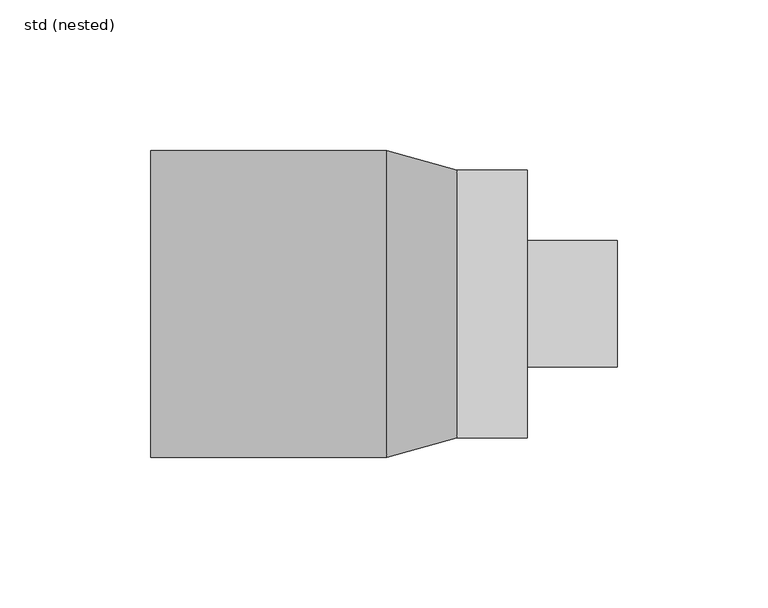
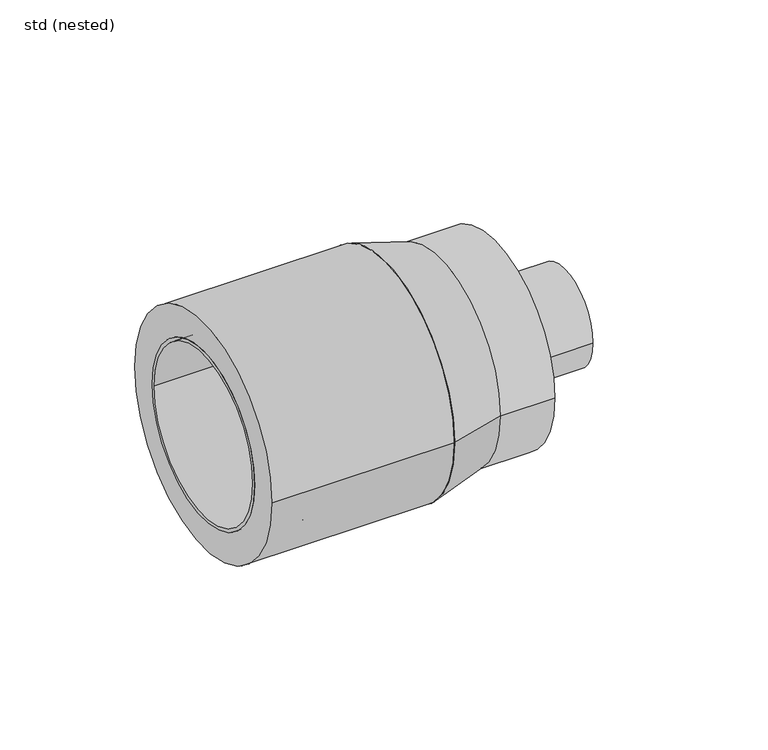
"""IFC4 building model written with IfcOpenShell, lengths in millimetres: pipe fitting geometry, ZZZ_do not use_PIF_ST_WPB_GM-X compound pipe optimiser_ACO : std (nested)."""

from ifc_helpers import new_model, si_unit, point, frame, origin, origin_2d, place, context, project, spatial, polyline, circle_curve, trimmed, segment, composite_curve, outline, extrude, source, transform, mapped, element, save
from ifc_brep_helpers import plane_surface, cylinder_surface, revolved_surface, advanced_brep


def std_nested_d763109f(model_context):
    return source(origin(), model_context, "Body", "SolidModel", [
        advanced_brep(
        [(-49.1, -42.1, 0.0), (-49.1, 42.1, 0.0), (-29.0, 42.1, 0.0), (-29.0, -42.1, 0.0), (-55.0, 38.0, 0.0), (-55.0, -38.0, 0.0), (-55.0, -36.5, 0.0), (-55.0, 36.5, 0.0), (0.0, 38.0, 0.0), (0.0, -38.0, 0.0), (0.0, 36.5, 0.0), (0.0, -36.5, 0.0), (-49.1, 38.0, 0.0), (-49.1, -38.0, 0.0), (-29.0, -38.0, 0.0), (-29.0, 38.0, 0.0)],
        [
            (0, 1, circle_curve(frame((-49.1, 0.0, 0.0), z_axis=(1.0, 0.0, 0.0), x_axis=(0.0, -1.0, 0.0)), 42.1)),
            (1, 2),
            (2, 3, circle_curve(frame((-29.0, 0.0, 0.0), z_axis=(-1.0, 0.0, 0.0), x_axis=(0.0, -1.0, 0.0)), 42.1)),
            (3, 0),
            (1, 0, circle_curve(frame((-49.1, 0.0, 0.0), z_axis=(1.0, 0.0, 0.0), x_axis=(0.0, -1.0, 0.0)), 42.1)),
            (3, 2, circle_curve(frame((-29.0, 0.0, 0.0), z_axis=(-1.0, 0.0, 0.0), x_axis=(0.0, -1.0, 0.0)), 42.1)),
            (4, 5, circle_curve(frame((-55.0, 0.0, 0.0), z_axis=(-1.0, 0.0, 0.0), x_axis=(0.0, -1.0, 0.0)), 38.0)),
            (5, 4, circle_curve(frame((-55.0, 0.0, 0.0), z_axis=(-1.0, 0.0, 0.0), x_axis=(0.0, -1.0, 0.0)), 38.0)),
            (6, 7, circle_curve(frame((-55.0, 0.0, 0.0), z_axis=(1.0, 0.0, 0.0), x_axis=(0.0, -1.0, 0.0)), 36.5)),
            (7, 6, circle_curve(frame((-55.0, 0.0, 0.0), z_axis=(1.0, 0.0, 0.0), x_axis=(0.0, -1.0, 0.0)), 36.5)),
            (8, 9, circle_curve(frame((0.0, 0.0, 0.0), z_axis=(1.0, 0.0, 0.0), x_axis=(0.0, -1.0, 0.0)), 38.0)),
            (9, 8, circle_curve(frame((0.0, 0.0, 0.0), z_axis=(1.0, 0.0, 0.0), x_axis=(0.0, -1.0, 0.0)), 38.0)),
            (10, 11, circle_curve(frame((0.0, 0.0, 0.0), z_axis=(-1.0, 0.0, 0.0), x_axis=(0.0, -1.0, 0.0)), 36.5)),
            (11, 10, circle_curve(frame((0.0, 0.0, 0.0), z_axis=(-1.0, 0.0, 0.0), x_axis=(0.0, -1.0, 0.0)), 36.5)),
            (4, 12),
            (12, 13, circle_curve(frame((-49.1, 0.0, 0.0), z_axis=(-1.0, 0.0, 0.0), x_axis=(0.0, -1.0, 0.0)), 38.0)),
            (13, 5),
            (9, 14),
            (14, 15, circle_curve(frame((-29.0, 0.0, 0.0), z_axis=(1.0, 0.0, 0.0), x_axis=(0.0, -1.0, 0.0)), 38.0)),
            (15, 8),
            (13, 12, circle_curve(frame((-49.1, 0.0, 0.0), z_axis=(-1.0, 0.0, 0.0), x_axis=(0.0, -1.0, 0.0)), 38.0)),
            (15, 14, circle_curve(frame((-29.0, 0.0, 0.0), z_axis=(1.0, 0.0, 0.0), x_axis=(0.0, -1.0, 0.0)), 38.0)),
            (6, 11),
            (10, 7),
        ],
        [
            cylinder_surface(frame((-29.0, 0.0, 0.0), z_axis=(-1.0, 0.0, 0.0), x_axis=(0.0, -1.0, 0.0)), 42.1),
            plane_surface(frame((-55.0, -38.0, 0.0), z_axis=(-1.0, 0.0, 0.0), x_axis=(0.0, 0.0, 1.0))),
            plane_surface(frame((0.0, -38.0, 0.0), z_axis=(1.0, 0.0, 0.0), x_axis=(0.0, 0.0, -1.0))),
            cylinder_surface(frame((0.0, 0.0, 0.0), z_axis=(-1.0, 0.0, 0.0), x_axis=(0.0, -1.0, 0.0)), 38.0),
            revolved_surface(polyline([(-55.0, -36.5, 0.0), (0.0, -36.5, 0.0)]), (0.0, 0.0, 0.0), (-1.0, 0.0, 0.0)),
            plane_surface(frame((-49.1, -42.1, 0.0), z_axis=(-1.0, 0.0, 0.0), x_axis=(0.0, 0.0, 1.0))),
            plane_surface(frame((-29.0, -42.1, 0.0), z_axis=(1.0, 0.0, 0.0), x_axis=(0.0, 0.0, -1.0))),
        ],
        [
            (0, [[1, 2, 3, 4]]),
            (0, [[5, -4, 6, -2]]),
            (1, [[7, 8], [9, 10]]),
            (2, [[11, 12], [13, 14]]),
            (3, [[-7, 15, 16, 17]]),
            (3, [[-12, 18, 19, 20]]),
            (3, [[-8, -17, 21, -15]]),
            (3, [[-11, -20, 22, -18]]),
            (4, [[23, -13, 24, -9]]),
            (4, [[-23, -10, -24, -14]]),
            (5, [[-1, -5], [-16, -21]]),
            (6, [[-6, -3], [-19, -22]]),
        ],
    ),
        advanced_brep(
        [(46.6666667, -44.5, 0.0), (46.6666667, 44.5, 0.0), (23.3333333, -51.0, 0.0), (23.3333333, 51.0, 0.0)],
        [
            (0, 1, circle_curve(frame((46.6666667, 0.0, 0.0), z_axis=(1.0, 0.0, 0.0), x_axis=(0.0, -1.0, 0.0)), 44.5)),
            (1, 0, circle_curve(frame((46.6666667, 0.0, 0.0), z_axis=(1.0, 0.0, 0.0), x_axis=(0.0, 1.0, 0.0)), 44.5)),
            (2, 3, circle_curve(frame((23.3333333, 0.0, 0.0), z_axis=(-1.0, 0.0, 0.0), x_axis=(0.0, 1.0, 0.0)), 51.0)),
            (3, 2, circle_curve(frame((23.3333333, 0.0, 0.0), z_axis=(-1.0, 0.0, 0.0), x_axis=(0.0, -1.0, 0.0)), 51.0)),
            (3, 1),
            (0, 2),
        ],
        [
            plane_surface(frame((46.6666667, 0.0, 0.0), z_axis=(1.0, 0.0, 0.0), x_axis=(0.0, 0.0, -1.0))),
            plane_surface(frame((23.3333333, 0.0, 0.0), z_axis=(-1.0, 0.0, 0.0), x_axis=(0.0, 0.0, -1.0))),
            revolved_surface(polyline([(46.66666670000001, -44.4999999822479, 0.0), (23.333333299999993, -51.0, 0.0)]), (206.4102564, 0.0, 0.0), (-1.0, 0.0, 0.0)),
            revolved_surface(polyline([(46.66666670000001, 44.4999999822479, 0.0), (23.333333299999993, 51.0, 0.0)]), (206.4102564, 0.0, 0.0), (-1.0, 0.0, 0.0)),
        ],
        [
            (0, [[1, 2]]),
            (1, [[3, 4]]),
            (2, [[-4, 5, -1, 6]]),
            (3, [[-3, -6, -2, -5]]),
        ],
    ),
        advanced_brep(
        [(-55.0, -51.0, 0.0), (-55.0, 51.0, 0.0), (-55.0, 38.0, 0.0), (-55.0, -38.0, 0.0), (23.3333333, -51.0, 0.0), (23.3333333, 51.0, 0.0), (0.0, -38.0, 0.0), (0.0, 38.0, 0.0)],
        [
            (0, 1, circle_curve(frame((-55.0, 0.0, 0.0), z_axis=(-1.0, 0.0, 0.0), x_axis=(0.0, 1.0, 0.0)), 51.0)),
            (1, 0, circle_curve(frame((-55.0, 0.0, 0.0), z_axis=(-1.0, 0.0, 0.0), x_axis=(0.0, 1.0, 0.0)), 51.0)),
            (2, 3, circle_curve(frame((-55.0, 0.0, 0.0), z_axis=(1.0, 0.0, 0.0), x_axis=(0.0, 1.0, 0.0)), 38.0)),
            (3, 2, circle_curve(frame((-55.0, 0.0, 0.0), z_axis=(1.0, 0.0, 0.0), x_axis=(0.0, 1.0, 0.0)), 38.0)),
            (4, 5, circle_curve(frame((23.3333333, 0.0, 0.0), z_axis=(1.0, 0.0, 0.0), x_axis=(0.0, 1.0, 0.0)), 51.0)),
            (5, 4, circle_curve(frame((23.3333333, 0.0, 0.0), z_axis=(1.0, 0.0, 0.0), x_axis=(0.0, 1.0, 0.0)), 51.0)),
            (0, 4),
            (5, 1),
            (6, 7, circle_curve(frame((0.0, 0.0, 0.0), z_axis=(-1.0, 0.0, 0.0), x_axis=(0.0, 1.0, 0.0)), 38.0)),
            (7, 6, circle_curve(frame((0.0, 0.0, 0.0), z_axis=(-1.0, 0.0, 0.0), x_axis=(0.0, 1.0, 0.0)), 38.0)),
            (6, 3),
            (2, 7),
        ],
        [
            plane_surface(frame((-55.0, 51.0, 0.0), z_axis=(-1.0, 0.0, 0.0), x_axis=(0.0, 0.0, -1.0))),
            plane_surface(frame((23.3333333, 51.0, 0.0), z_axis=(1.0, 0.0, 0.0), x_axis=(0.0, 0.0, 1.0))),
            cylinder_surface(frame((23.3333333, 0.0, 0.0), z_axis=(-1.0, 0.0, 0.0), x_axis=(0.0, 1.0, 0.0)), 51.0),
            plane_surface(frame((0.0, 38.0, 0.0), z_axis=(-1.0, 0.0, 0.0), x_axis=(0.0, 0.0, 1.0))),
            revolved_surface(polyline([(-55.0, 38.0, 0.0), (0.0, 38.0, 0.0)]), (0.0, 0.0, 0.0), (-1.0, 0.0, 0.0)),
        ],
        [
            (0, [[1, 2], [3, 4]]),
            (1, [[5, 6]]),
            (2, [[-1, 7, -6, 8]]),
            (2, [[-2, -8, -5, -7]]),
            (3, [[9, 10]]),
            (4, [[-9, 11, -3, 12]]),
            (4, [[-10, -12, -4, -11]]),
        ],
    ),
        extrude(outline(composite_curve([segment(trimmed(circle_curve(origin_2d(), 44.5), [point((44.5, 0.0))], [point((-44.5, 0.0))], False, "CARTESIAN"), True, "CONTINUOUS"), segment(trimmed(circle_curve(origin_2d(), 44.5), [point((-44.5, 0.0))], [point((44.5, 0.0))], False, "CARTESIAN"), True, "CONTINUOUS")], self_intersect=False)), frame((46.6666667, 0.0, 0.0), z_axis=(1.0, 0.0, 0.0), x_axis=(0.0, 1.0, 0.0)), (0.0, 0.0, 1.0), 23.3333333),
        extrude(outline(composite_curve([segment(trimmed(circle_curve(origin_2d(), 21.0), [point((21.0, 0.0))], [point((-21.0, 0.0))], False, "CARTESIAN"), True, "CONTINUOUS"), segment(trimmed(circle_curve(origin_2d(), 21.0), [point((-21.0, 0.0))], [point((21.0, 0.0))], False, "CARTESIAN"), True, "CONTINUOUS")], self_intersect=False)), frame((70.0, 0.0, 0.0), z_axis=(1.0, 0.0, 0.0), x_axis=(0.0, 1.0, 0.0)), (0.0, 0.0, 1.0), 30.0),
    ])


if __name__ == "__main__":
    model = new_model("IFC4")
    model_context = context("Model", 3, world=origin())
    ifc_project = project(units=[si_unit("LENGTHUNIT", "METRE", prefix="MILLI")], contexts=[model_context])
    site = spatial("IfcSite", under=ifc_project)
    building = spatial("IfcBuilding", under=site)
    placement = place(None, origin())
    std_nested_shape = std_nested_d763109f(model_context)
    element("IfcPipeFitting", 1, ObjectType="ZZZ_do not use_PIF_ST_WPB_GM-X compound pipe optimiser_ACO : std (nested)", at=placement, inside=building, context=model_context, shape_type="MappedRepresentation", body=[
        mapped(std_nested_shape, transform((0.0, 0.0, 0.0), x_axis=(1.0, 0.0, 0.0), y_axis=(0.0, 1.0, 0.0), z_axis=(0.0, 0.0, 1.0))),
    ])
    save(model, "model.ifc")
